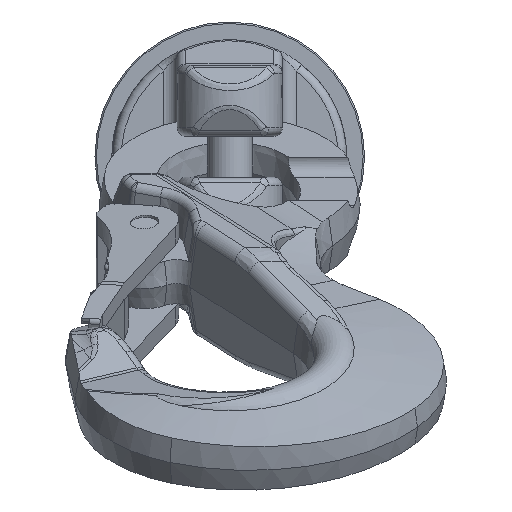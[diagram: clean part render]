
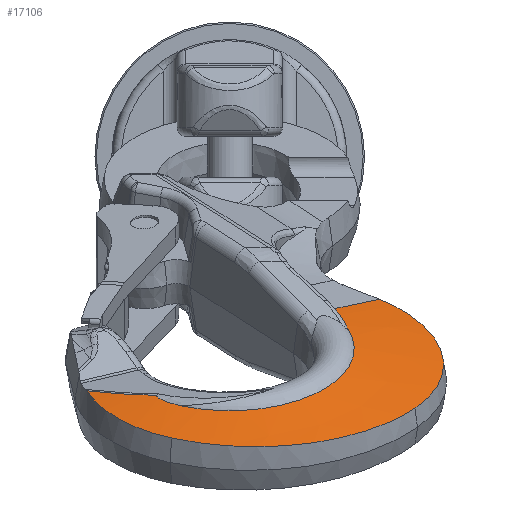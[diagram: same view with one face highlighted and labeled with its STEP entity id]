
A CAD part, left-side view. The second image highlights one B-rep face of the part: STEP entity #17106.
In plain terms, the highlighted conical face has half-angle 80.84 degrees and reference radius 58.871 mm.
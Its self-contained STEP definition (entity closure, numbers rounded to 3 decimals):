
#12425=CARTESIAN_POINT('',(-50.452,9.992,
171.683));
#12426=CARTESIAN_POINT('',(-48.241,10.24,
172.608));
#12427=CARTESIAN_POINT('',(-43.905,10.708,
174.279));
#12428=CARTESIAN_POINT('',(-37.746,11.321,
176.264));
#12429=CARTESIAN_POINT('',(-31.73,11.871,
177.822));
#12430=CARTESIAN_POINT('',(-27.757,12.2,
178.587));
#12431=CARTESIAN_POINT('',(-25.788,12.354,
178.899));
#12433=CARTESIAN_POINT('',(-25.788,12.354,
178.899));
#12434=CARTESIAN_POINT('',(-25.807,12.346,
178.949));
#12435=CARTESIAN_POINT('',(-25.828,12.33,
179.059));
#12436=CARTESIAN_POINT('',(-25.814,12.307,
179.242));
#12437=CARTESIAN_POINT('',(-25.76,12.286,
179.447));
#12438=CARTESIAN_POINT('',(-25.668,12.267,
179.67));
#12439=CARTESIAN_POINT('',(-25.547,12.249,
179.897));
#12440=CARTESIAN_POINT('',(-25.406,12.234,
180.121));
#12441=CARTESIAN_POINT('',(-25.234,12.218,
180.362));
#12442=CARTESIAN_POINT('',(-25.035,12.204,
180.615));
#12443=CARTESIAN_POINT('',(-24.806,12.19,
180.881));
#12444=CARTESIAN_POINT('',(-24.546,12.177,
181.161));
#12445=CARTESIAN_POINT('',(-24.251,12.165,
181.457));
#12446=CARTESIAN_POINT('',(-23.918,12.153,
181.768));
#12447=CARTESIAN_POINT('',(-23.544,12.141,
182.096));
#12448=CARTESIAN_POINT('',(-23.125,12.131,
182.441));
#12449=CARTESIAN_POINT('',(-22.656,12.121,
182.804));
#12450=CARTESIAN_POINT('',(-22.132,12.111,
183.184));
#12451=CARTESIAN_POINT('',(-21.547,12.103,
183.581));
#12452=CARTESIAN_POINT('',(-20.893,12.096,
183.996));
#12453=CARTESIAN_POINT('',(-20.163,12.09,
184.426));
#12454=CARTESIAN_POINT('',(-19.348,12.085,
184.87));
#12455=CARTESIAN_POINT('',(-18.439,12.082,
185.326));
#12456=CARTESIAN_POINT('',(-17.76,12.081,
185.636));
#12457=CARTESIAN_POINT('',(-17.402,12.081,
185.79));
#12459=CARTESIAN_POINT('',(0.,12.081,145.5));
#12460=DIRECTION('',(0.,1.,0.));
#12461=DIRECTION('',(0.934,0.,-0.358));
#12462=AXIS2_PLACEMENT_3D('',#12459,#12460,#12461);
#12464=DIRECTION('',(0.778,-0.159,-0.608));
#12465=VECTOR('',#12464,23.287);
#12466=CARTESIAN_POINT('',(34.584,12.081,118.48));
#12467=LINE('',#12466,#12465);
#12468=CARTESIAN_POINT('',(65.233,7.303,179.409));
#12469=CARTESIAN_POINT('',(66.412,7.255,177.78));
#12470=CARTESIAN_POINT('',(68.593,7.17,174.38));
#12471=CARTESIAN_POINT('',(71.282,7.073,168.908));
#12472=CARTESIAN_POINT('',(73.327,7.008,163.174));
#12473=CARTESIAN_POINT('',(74.699,6.976,157.311));
#12474=CARTESIAN_POINT('',(75.41,6.976,151.282));
#12475=CARTESIAN_POINT('',(75.431,7.008,145.191));
#12476=CARTESIAN_POINT('',(74.766,7.072,139.174));
#12477=CARTESIAN_POINT('',(73.433,7.167,133.284));
#12478=CARTESIAN_POINT('',(71.444,7.294,127.578));
#12479=CARTESIAN_POINT('',(68.825,7.451,122.135));
#12480=CARTESIAN_POINT('',(65.619,7.637,117.031));
#12481=CARTESIAN_POINT('',(61.827,7.854,112.281));
#12482=CARTESIAN_POINT('',(57.509,8.1,107.985));
#12483=CARTESIAN_POINT('',(54.343,8.28,105.482));
#12484=CARTESIAN_POINT('',(52.7,8.374,104.326));
#12486=CARTESIAN_POINT('',(-20.463,9.224,
203.607));
#12487=CARTESIAN_POINT('',(-18.193,9.202,
204.55));
#12488=CARTESIAN_POINT('',(-13.554,9.152,
206.204));
#12489=CARTESIAN_POINT('',(-6.336,9.057,
207.965));
#12490=CARTESIAN_POINT('',(1.014,8.945,208.97));
#12491=CARTESIAN_POINT('',(8.384,8.818,209.214));
#12492=CARTESIAN_POINT('',(15.771,8.677,208.701));
#12493=CARTESIAN_POINT('',(23.08,8.524,207.425));
#12494=CARTESIAN_POINT('',(30.186,8.361,205.414));
#12495=CARTESIAN_POINT('',(37.049,8.192,202.687));
#12496=CARTESIAN_POINT('',(43.614,8.016,199.258));
#12497=CARTESIAN_POINT('',(49.774,7.838,195.185));
#12498=CARTESIAN_POINT('',(55.501,7.658,190.487));
#12499=CARTESIAN_POINT('',(60.702,7.479,185.237));
#12500=CARTESIAN_POINT('',(63.792,7.361,181.4));
#12501=CARTESIAN_POINT('',(65.233,7.303,179.409));
#12503=CARTESIAN_POINT('',(-50.452,9.992,
171.683));
#12504=CARTESIAN_POINT('',(-49.842,9.948,
173.457));
#12505=CARTESIAN_POINT('',(-48.434,9.861,
176.944));
#12506=CARTESIAN_POINT('',(-45.785,9.739,
181.919));
#12507=CARTESIAN_POINT('',(-42.613,9.625,
186.605));
#12508=CARTESIAN_POINT('',(-38.969,9.522,
190.921));
#12509=CARTESIAN_POINT('',(-34.912,9.43,
194.811));
#12510=CARTESIAN_POINT('',(-30.433,9.348,
198.28));
#12511=CARTESIAN_POINT('',(-25.596,9.279,
201.261));
#12512=CARTESIAN_POINT('',(-22.197,9.241,
202.887));
#12513=CARTESIAN_POINT('',(-20.463,9.224,
203.607));
#12523=CARTESIAN_POINT('',(-50.452,9.992,
171.683));
#12535=CARTESIAN_POINT('',(-17.402,12.081,
185.79));
#12594=CARTESIAN_POINT('',(0.,12.081,145.5));
#12595=DIRECTION('',(0.,-1.,0.));
#12596=DIRECTION('',(0.934,0.,-0.358));
#12597=AXIS2_PLACEMENT_3D('',#12594,#12595,#12596);
#12944=CARTESIAN_POINT('',(52.7,8.374,104.326));
#14917=CARTESIAN_POINT('',(40.986,12.081,129.808));
#15142=CARTESIAN_POINT('',(34.584,12.081,118.48));
#15143=VERTEX_POINT('',#15142);
#15155=VERTEX_POINT('',#12944);
#15156=VERTEX_POINT('',#12468);
#15157=VERTEX_POINT('',#12486);
#15229=VERTEX_POINT('',#14917);
#15242=VERTEX_POINT('',#12535);
#15246=VERTEX_POINT('',#12523);
#15277=VERTEX_POINT('',#12433);
#17085=CARTESIAN_POINT('',(0.,9.665,145.5));
#17086=DIRECTION('',(0.,-1.,0.));
#17087=DIRECTION('',(-0.788,0.,0.616));
#17088=AXIS2_PLACEMENT_3D('',#17085,#17086,#17087);
#17089=CONICAL_SURFACE('',#17088,58.871,80.84);
#17091=ORIENTED_EDGE('',*,*,#17090,.T.);
#17093=ORIENTED_EDGE('',*,*,#17092,.T.);
#17095=ORIENTED_EDGE('',*,*,#17094,.F.);
#17097=ORIENTED_EDGE('',*,*,#17096,.T.);
#17099=ORIENTED_EDGE('',*,*,#17098,.T.);
#17101=ORIENTED_EDGE('',*,*,#17100,.F.);
#17102=ORIENTED_EDGE('',*,*,#17078,.F.);
#17103=ORIENTED_EDGE('',*,*,#17028,.F.);
#17104=EDGE_LOOP('',(#17091,#17093,#17095,#17097,#17099,#17101,#17102,#17103));
#17105=FACE_OUTER_BOUND('',#17104,.F.);
#17106=ADVANCED_FACE('',(#17105),#17089,.T.);
#12432=B_SPLINE_CURVE_WITH_KNOTS('',3,(#12425,#12426,#12427,#12428,#12429,
#12430,#12431),.UNSPECIFIED.,.F.,.F.,(4,1,1,1,4),(0.,0.25,0.5,0.75,
1.),.UNSPECIFIED.);
#12458=B_SPLINE_CURVE_WITH_KNOTS('',3,(#12433,#12434,#12435,#12436,#12437,
#12438,#12439,#12440,#12441,#12442,#12443,#12444,#12445,#12446,#12447,#12448,
#12449,#12450,#12451,#12452,#12453,#12454,#12455,#12456,#12457),.UNSPECIFIED.,
.F.,.F.,(4,1,1,1,1,1,1,1,1,1,1,1,1,1,1,1,1,1,1,1,1,1,4),(0.,0.045,
0.091,0.136,0.182,0.227,
0.273,0.318,0.364,0.409,
0.455,0.5,0.545,0.591,0.636,
0.682,0.727,0.773,0.818,
0.864,0.909,0.955,1.),.UNSPECIFIED.);
#12463=CIRCLE('',#12462,43.888);
#12485=B_SPLINE_CURVE_WITH_KNOTS('',3,(#12468,#12469,#12470,#12471,#12472,
#12473,#12474,#12475,#12476,#12477,#12478,#12479,#12480,#12481,#12482,#12483,
#12484),.UNSPECIFIED.,.F.,.F.,(4,1,1,1,1,1,1,1,1,1,1,1,1,1,4),(0.,
0.071,0.143,0.214,0.286,
0.357,0.429,0.5,0.571,0.643,
0.714,0.786,0.857,0.929,1.),
.UNSPECIFIED.);
#12502=B_SPLINE_CURVE_WITH_KNOTS('',3,(#12486,#12487,#12488,#12489,#12490,
#12491,#12492,#12493,#12494,#12495,#12496,#12497,#12498,#12499,#12500,#12501),
.UNSPECIFIED.,.F.,.F.,(4,1,1,1,1,1,1,1,1,1,1,1,1,4),(0.,0.077,
0.154,0.231,0.308,0.385,
0.462,0.538,0.615,0.692,
0.769,0.846,0.923,1.),.UNSPECIFIED.);
#12514=B_SPLINE_CURVE_WITH_KNOTS('',3,(#12503,#12504,#12505,#12506,#12507,
#12508,#12509,#12510,#12511,#12512,#12513),.UNSPECIFIED.,.F.,.F.,(4,1,1,1,1,1,1,
1,4),(0.,0.125,0.25,0.375,0.5,0.625,0.75,0.875,1.),
.UNSPECIFIED.);
#12598=CIRCLE('',#12597,43.888);
#17028=EDGE_CURVE('',#15246,#15157,#12514,.T.);
#17078=EDGE_CURVE('',#15157,#15156,#12502,.T.);
#17090=EDGE_CURVE('',#15246,#15277,#12432,.T.);
#17092=EDGE_CURVE('',#15277,#15242,#12458,.T.);
#17094=EDGE_CURVE('',#15229,#15242,#12598,.T.);
#17096=EDGE_CURVE('',#15229,#15143,#12463,.T.);
#17098=EDGE_CURVE('',#15143,#15155,#12467,.T.);
#17100=EDGE_CURVE('',#15156,#15155,#12485,.T.);
